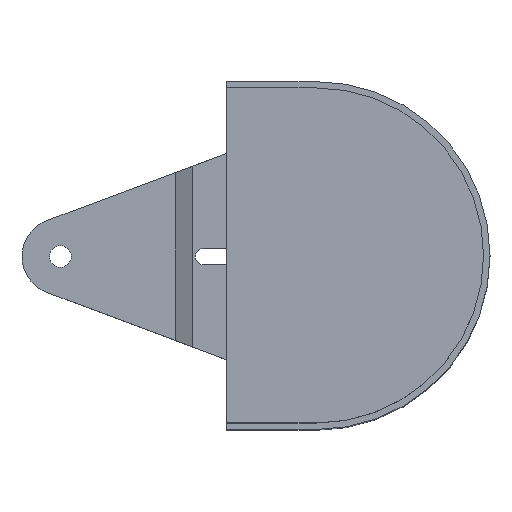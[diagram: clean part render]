
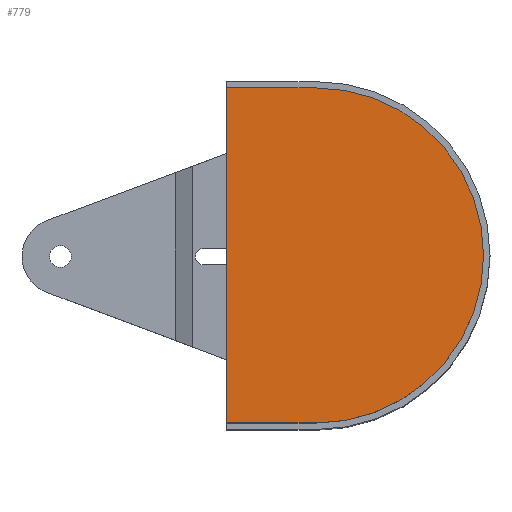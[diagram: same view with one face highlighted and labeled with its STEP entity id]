
A CAD part, top view. The second image highlights one B-rep face of the part: STEP entity #779.
In plain terms, the highlighted planar face has unit normal (0, 0, 1).
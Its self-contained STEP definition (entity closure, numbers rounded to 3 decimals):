
#17 = CARTESIAN_POINT ( 'NONE',  ( -68., -65.5, 116.25 ) ) ;
#81 = EDGE_CURVE ( 'NONE', #207, #1841, #1544, .T. ) ;
#151 = VECTOR ( 'NONE', #991, 1000. ) ;
#153 = CARTESIAN_POINT ( 'NONE',  ( -103., -65.5, 116.25 ) ) ;
#207 = VERTEX_POINT ( 'NONE', #295 ) ;
#273 = CARTESIAN_POINT ( 'NONE',  ( -68., 0., 116.25 ) ) ;
#295 = CARTESIAN_POINT ( 'NONE',  ( -103., 65.5, 116.25 ) ) ;
#320 = AXIS2_PLACEMENT_3D ( 'NONE', #273, #1762, #999 ) ;
#384 = EDGE_CURVE ( 'NONE', #2193, #207, #1659, .T. ) ;
#397 = DIRECTION ( 'NONE',  ( 0., 0., 1. ) ) ;
#465 = AXIS2_PLACEMENT_3D ( 'NONE', #794, #397, #1892 ) ;
#625 = CARTESIAN_POINT ( 'NONE',  ( -68., 65.5, 116.25 ) ) ;
#736 = LINE ( 'NONE', #153, #1568 ) ;
#779 = ADVANCED_FACE ( 'NONE', ( #1433 ), #1370, .T. ) ;
#789 = CARTESIAN_POINT ( 'NONE',  ( -103., 65.5, 116.25 ) ) ;
#794 = CARTESIAN_POINT ( 'NONE',  ( -68., 0., 116.25 ) ) ;
#937 = ORIENTED_EDGE ( 'NONE', *, *, #984, .T. ) ;
#984 = EDGE_CURVE ( 'NONE', #1841, #1089, #736, .T. ) ;
#991 = DIRECTION ( 'NONE',  ( 0., -1., 0. ) ) ;
#999 = DIRECTION ( 'NONE',  ( 1., 0., 0. ) ) ;
#1089 = VERTEX_POINT ( 'NONE', #17 ) ;
#1093 = CIRCLE ( 'NONE', #465, 65.5 ) ;
#1103 = VECTOR ( 'NONE', #2357, 1000. ) ;
#1172 = ORIENTED_EDGE ( 'NONE', *, *, #2306, .T. ) ;
#1370 = PLANE ( 'NONE',  #320 ) ;
#1433 = FACE_OUTER_BOUND ( 'NONE', #1658, .T. ) ;
#1460 = DIRECTION ( 'NONE',  ( 1., 0., 0. ) ) ;
#1544 = LINE ( 'NONE', #789, #151 ) ;
#1568 = VECTOR ( 'NONE', #1460, 1000. ) ;
#1650 = ORIENTED_EDGE ( 'NONE', *, *, #81, .T. ) ;
#1658 = EDGE_LOOP ( 'NONE', ( #2020, #1650, #937, #1172 ) ) ;
#1659 = LINE ( 'NONE', #1827, #1103 ) ;
#1762 = DIRECTION ( 'NONE',  ( 0., 0., 1. ) ) ;
#1827 = CARTESIAN_POINT ( 'NONE',  ( -68., 65.5, 116.25 ) ) ;
#1841 = VERTEX_POINT ( 'NONE', #1867 ) ;
#1867 = CARTESIAN_POINT ( 'NONE',  ( -103., -65.5, 116.25 ) ) ;
#1892 = DIRECTION ( 'NONE',  ( 1., 0., 0. ) ) ;
#2020 = ORIENTED_EDGE ( 'NONE', *, *, #384, .T. ) ;
#2193 = VERTEX_POINT ( 'NONE', #625 ) ;
#2306 = EDGE_CURVE ( 'NONE', #1089, #2193, #1093, .T. ) ;
#2357 = DIRECTION ( 'NONE',  ( -1., 0., 0. ) ) ;
